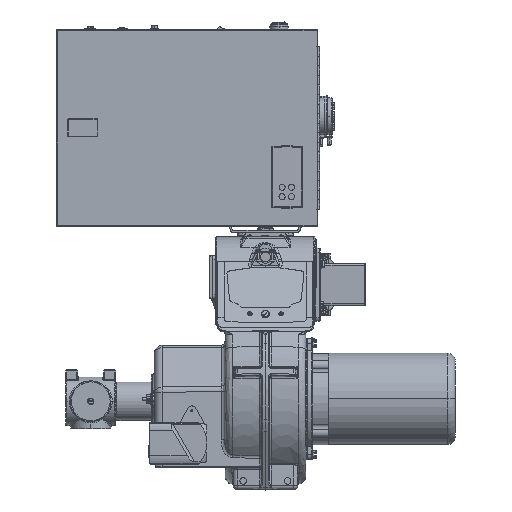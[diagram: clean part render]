
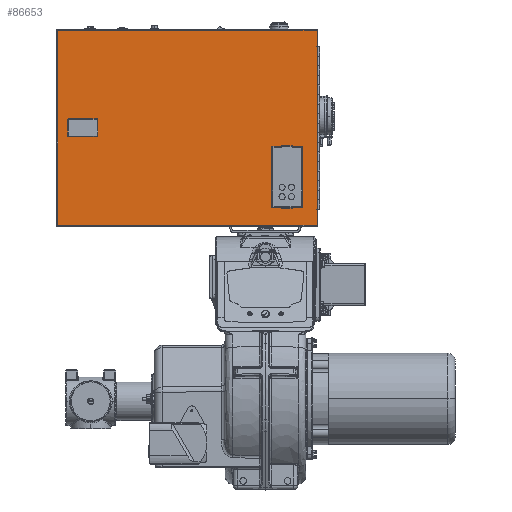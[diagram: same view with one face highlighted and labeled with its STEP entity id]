
A CAD part, top view. The second image highlights one B-rep face of the part: STEP entity #86653.
In plain terms, the highlighted planar face has unit normal (0, 0, 1).
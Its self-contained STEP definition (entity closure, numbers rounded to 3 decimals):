
#86426=DIRECTION('',(0.,-1.,0.));
#86427=VECTOR('',#86426,12.06);
#86428=CARTESIAN_POINT('',(-5.861,29.532,
-7.419));
#86429=LINE('',#86428,#86427);
#86443=DIRECTION('',(-1.,0.,0.));
#86444=VECTOR('',#86443,16.06);
#86445=CARTESIAN_POINT('',(10.199,29.532,
-7.419));
#86446=LINE('',#86445,#86444);
#86477=DIRECTION('',(0.,1.,0.));
#86478=VECTOR('',#86477,12.06);
#86479=CARTESIAN_POINT('',(10.199,17.472,
-7.419));
#86480=LINE('',#86479,#86478);
#86490=DIRECTION('',(1.,0.,0.));
#86491=VECTOR('',#86490,16.06);
#86492=CARTESIAN_POINT('',(-5.861,17.472,
-7.419));
#86493=LINE('',#86492,#86491);
#86514=CARTESIAN_POINT('',(10.199,29.532,
-7.419));
#86515=CARTESIAN_POINT('',(-5.861,29.532,
-7.419));
#86516=VERTEX_POINT('',#86514);
#86517=VERTEX_POINT('',#86515);
#86520=CARTESIAN_POINT('',(-5.861,17.472,
-7.419));
#86521=VERTEX_POINT('',#86520);
#86522=CARTESIAN_POINT('',(10.199,17.472,
-7.419));
#86523=VERTEX_POINT('',#86522);
#86642=CARTESIAN_POINT('',(2.169,23.502,
-7.419));
#86643=DIRECTION('',(0.,0.,1.));
#86644=DIRECTION('',(1.,0.,0.));
#86645=AXIS2_PLACEMENT_3D('',#86642,#86643,#86644);
#86646=PLANE('',#86645);
#86647=ORIENTED_EDGE('',*,*,#86581,.F.);
#86648=ORIENTED_EDGE('',*,*,#86622,.F.);
#86649=ORIENTED_EDGE('',*,*,#86633,.F.);
#86650=ORIENTED_EDGE('',*,*,#86565,.F.);
#86651=EDGE_LOOP('',(#86647,#86648,#86649,#86650));
#86652=FACE_OUTER_BOUND('',#86651,.F.);
#86565=EDGE_CURVE('',#86517,#86521,#86429,.T.);
#86581=EDGE_CURVE('',#86516,#86517,#86446,.T.);
#86622=EDGE_CURVE('',#86523,#86516,#86480,.T.);
#86633=EDGE_CURVE('',#86521,#86523,#86493,.T.);
#86653=ADVANCED_FACE('',(#86652),#86646,.T.);
